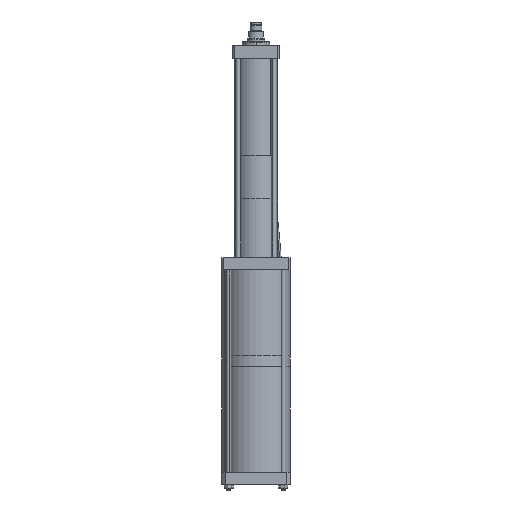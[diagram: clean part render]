
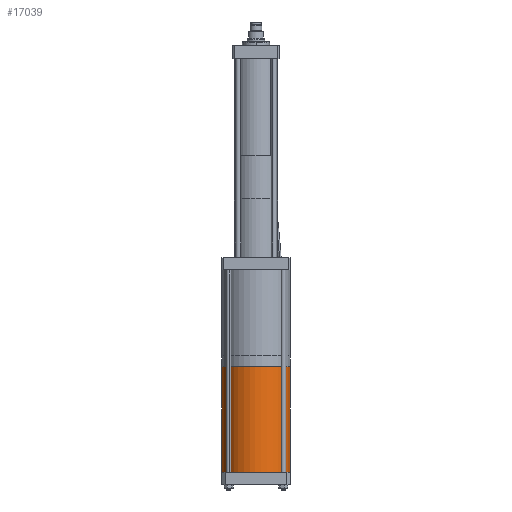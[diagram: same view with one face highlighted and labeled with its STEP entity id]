
A CAD part, front view. The second image highlights one B-rep face of the part: STEP entity #17039.
In plain terms, the highlighted cylindrical face has radius 87.5 mm (diameter 175 mm), a partial arc.
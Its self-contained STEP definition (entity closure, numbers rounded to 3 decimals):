
#162 = ORIENTED_EDGE ( 'NONE', *, *, #13425, .T. ) ;
#646 = VERTEX_POINT ( 'NONE', #2822 ) ;
#883 = AXIS2_PLACEMENT_3D ( 'NONE', #9823, #25512, #13716 ) ;
#1273 = DIRECTION ( 'NONE',  ( 0., 0., 1. ) ) ;
#2407 = CARTESIAN_POINT ( 'NONE',  ( 87.489, -1.417, -408. ) ) ;
#2822 = CARTESIAN_POINT ( 'NONE',  ( -87.489, 1.417, -408. ) ) ;
#3345 = DIRECTION ( 'NONE',  ( 0., 0., -1. ) ) ;
#3661 = EDGE_CURVE ( 'NONE', #646, #12310, #13740, .T. ) ;
#3689 = CARTESIAN_POINT ( 'NONE',  ( -87.489, 1.417, -138. ) ) ;
#3713 = EDGE_CURVE ( 'NONE', #7484, #3807, #15379, .T. ) ;
#3807 = VERTEX_POINT ( 'NONE', #20442 ) ;
#3924 = ORIENTED_EDGE ( 'NONE', *, *, #10673, .F. ) ;
#5004 = DIRECTION ( 'NONE',  ( 0., 0., -1. ) ) ;
#5289 = FACE_OUTER_BOUND ( 'NONE', #6776, .T. ) ;
#5665 = VECTOR ( 'NONE', #5004, 1000. ) ;
#6776 = EDGE_LOOP ( 'NONE', ( #3924, #13349, #162, #23844 ) ) ;
#6960 = CARTESIAN_POINT ( 'NONE',  ( 87.489, -1.417, -138. ) ) ;
#7484 = VERTEX_POINT ( 'NONE', #23150 ) ;
#8250 = VECTOR ( 'NONE', #21217, 1000. ) ;
#9181 = DIRECTION ( 'NONE',  ( 1., -0.016, 0. ) ) ;
#9823 = CARTESIAN_POINT ( 'NONE',  ( 0., 0., -138. ) ) ;
#10673 = EDGE_CURVE ( 'NONE', #3807, #12310, #22921, .T. ) ;
#11278 = DIRECTION ( 'NONE',  ( -1., 0.016, 0. ) ) ;
#12310 = VERTEX_POINT ( 'NONE', #2407 ) ;
#13222 = CYLINDRICAL_SURFACE ( 'NONE', #15391, 87.5 ) ;
#13349 = ORIENTED_EDGE ( 'NONE', *, *, #3713, .F. ) ;
#13425 = EDGE_CURVE ( 'NONE', #7484, #646, #17570, .T. ) ;
#13716 = DIRECTION ( 'NONE',  ( 1., -0.016, 0. ) ) ;
#13740 = CIRCLE ( 'NONE', #15802, 87.5 ) ;
#15379 = CIRCLE ( 'NONE', #883, 87.5 ) ;
#15391 = AXIS2_PLACEMENT_3D ( 'NONE', #21126, #3345, #11278 ) ;
#15802 = AXIS2_PLACEMENT_3D ( 'NONE', #19034, #1273, #9181 ) ;
#17039 = ADVANCED_FACE ( 'NONE', ( #5289 ), #13222, .T. ) ;
#17570 = LINE ( 'NONE', #3689, #8250 ) ;
#19034 = CARTESIAN_POINT ( 'NONE',  ( 0., 0., -408. ) ) ;
#20442 = CARTESIAN_POINT ( 'NONE',  ( 87.489, -1.417, -138. ) ) ;
#21126 = CARTESIAN_POINT ( 'NONE',  ( 0., 0., -138. ) ) ;
#21217 = DIRECTION ( 'NONE',  ( 0., 0., -1. ) ) ;
#22921 = LINE ( 'NONE', #6960, #5665 ) ;
#23150 = CARTESIAN_POINT ( 'NONE',  ( -87.489, 1.417, -138. ) ) ;
#23844 = ORIENTED_EDGE ( 'NONE', *, *, #3661, .T. ) ;
#25512 = DIRECTION ( 'NONE',  ( 0., 0., 1. ) ) ;
